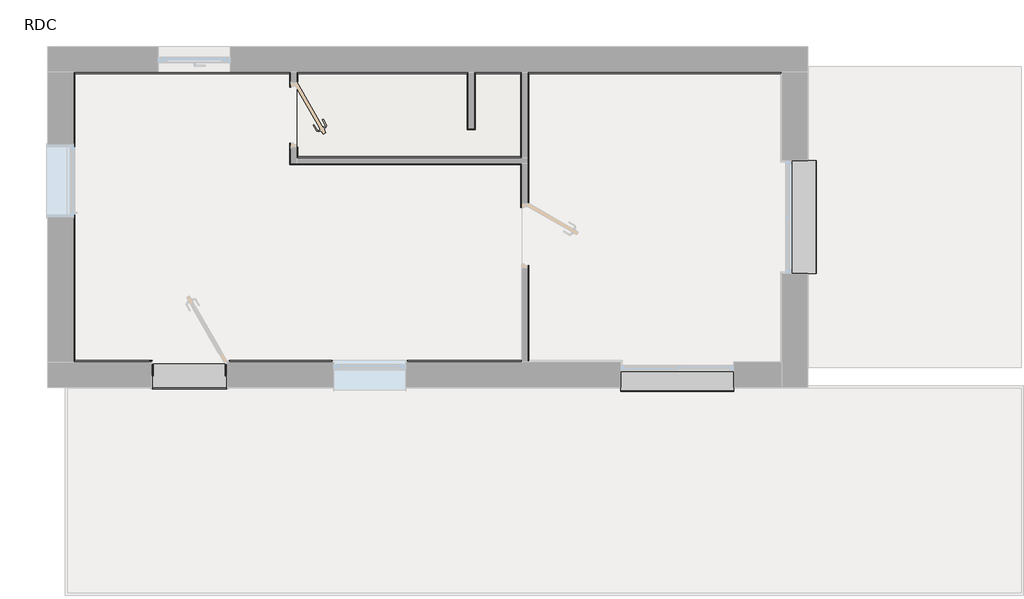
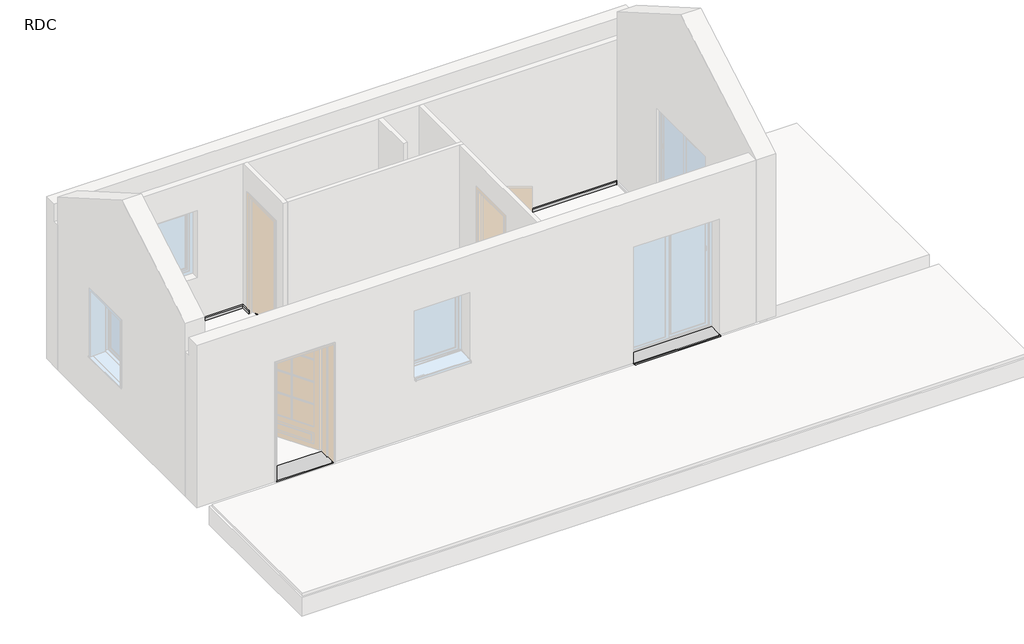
# One storey, part 2 of 2: 8 proxies, 1 slab.
"""IFC4 building model written with IfcOpenShell, lengths in millimetres."""

from ifc_helpers import new_model, si_unit, frame, origin, place, context, project, spatial, circle_curve, ellipse_curve, faceted_brep, transform, mapped, element, save
from ifc_brep_helpers import plane_surface, cylinder_surface, advanced_brep
from components import famille1_a44e7e37, famille1_b6ac26f9

model = new_model("IFC4")

# Units and contexts
model_context = context("Model", 3, world=origin())
ifc_project = project(units=[si_unit("LENGTHUNIT", "METRE", prefix="MILLI")], contexts=[model_context])

# Site, building, storey
site = spatial("IfcSite", under=ifc_project)
building = spatial("IfcBuilding", under=site)
storey = spatial("IfcBuildingStorey", under=building, Name="RDC", Elevation=1000.0)

# Proxies
placement = place(None, origin())
element("IfcBuildingElementProxy", 1, Name="Bord des dalles 2", ObjectType="Bord des dalles 2", at=placement, inside=storey, context=model_context, shape_type="AdvancedBrep", body=[
    advanced_brep(
    [(5938.5031637, 1646.0506387, 1080.0), (5938.5031637, 1646.0506387, 1020.0), (5953.5031637, 1631.0506387, 1020.0), (5953.5031637, 1631.0506387, 1067.7576914), (8073.5031637, 1646.0506387, 1080.0), (8073.5031637, 1646.0506387, 1020.0), (8058.5031637, 1631.0506387, 1020.0), (8058.5031637, 1631.0506387, 1067.7576914), (8073.5031637, 946.0506387, 1080.0), (8058.5031637, 931.0506387, 1067.7576914), (8058.5031637, 931.0506387, 1020.0), (8073.5031637, 946.0506387, 1020.0)],
    [
        (0, 1),
        (1, 2),
        (2, 3),
        (3, 0, ellipse_curve(frame((5937.9483581, 1646.6054442, 1064.0096219), z_axis=(-0.7071067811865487, -0.7071067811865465, 0.0), x_axis=(0.7071067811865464, -0.7071067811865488, 0.0)), 22.627417, 16.0)),
        (4, 5),
        (5, 1),
        (0, 4),
        (5, 6),
        (6, 2),
        (6, 7),
        (7, 3),
        (7, 4, ellipse_curve(frame((8074.0579692, 1646.6054442, 1064.0096219), z_axis=(-0.7071067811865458, 0.7071067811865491, 0.0), x_axis=(0.7071067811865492, 0.7071067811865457, 0.0)), 22.627417, 16.0)),
        (8, 9, ellipse_curve(frame((8074.0579692, 946.6054442, 1064.0096219), z_axis=(0.7071067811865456, -0.7071067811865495, 0.0), x_axis=(-0.7071067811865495, -0.7071067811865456, 0.0)), 22.627417, 16.0)),
        (9, 10),
        (10, 11),
        (11, 8),
        (11, 5),
        (4, 8),
        (10, 6),
        (9, 7),
    ],
    [
        plane_surface(frame((5938.5031637, 1646.0506387, 1020.0), z_axis=(-0.7071067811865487, -0.7071067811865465, 0.0), x_axis=(0.7071067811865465, -0.7071067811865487, 0.0))),
        plane_surface(frame((8073.5031637, 1646.0506387, 1020.0), z_axis=(0.0, 1.0, 0.0), x_axis=(-1.0, 0.0, 0.0))),
        plane_surface(frame((8058.5031637, 1631.0506387, 1020.0), z_axis=(0.0, 0.0, -1.0), x_axis=(-1.0, 0.0, 0.0))),
        plane_surface(frame((8058.5031637, 1631.0506387, 1067.7576914), z_axis=(0.0, -1.0, 0.0), x_axis=(-1.0, 0.0, 0.0))),
        cylinder_surface(frame((8073.5031637, 1646.6054442, 1064.0096219), z_axis=(1.0, 0.0, 0.0), x_axis=(0.0, -1.0, 0.0)), 16.0),
        plane_surface(frame((8073.5031637, 946.0506387, 1020.0), z_axis=(0.7071067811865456, -0.7071067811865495, 0.0), x_axis=(-0.7071067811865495, -0.7071067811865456, 0.0))),
        plane_surface(frame((8073.5031637, 946.0506387, 1020.0), z_axis=(1.0, 0.0, 0.0), x_axis=(0.0, 1.0, 0.0))),
        plane_surface(frame((8058.5031637, 931.0506387, 1020.0), z_axis=(0.0, 0.0, -1.0), x_axis=(0.0, 1.0, 0.0))),
        plane_surface(frame((8058.5031637, 931.0506387, 1067.7576914), z_axis=(-1.0, 0.0, 0.0), x_axis=(0.0, 1.0, 0.0))),
        cylinder_surface(frame((8074.0579692, 946.0506387, 1064.0096219), z_axis=(0.0, -1.0, 0.0), x_axis=(-1.0, 0.0, 0.0)), 16.0),
    ],
    [
        (0, [[1, 2, 3, 4]]),
        (1, [[5, 6, -1, 7]]),
        (2, [[8, 9, -2, -6]]),
        (3, [[10, 11, -3, -9]]),
        (4, [[12, -7, -4, -11]]),
        (5, [[13, 14, 15, 16]]),
        (6, [[-16, 17, -5, 18]]),
        (7, [[-15, 19, -8, -17]]),
        (8, [[-14, 20, -10, -19]]),
        (9, [[-13, -18, -12, -20]]),
    ],
),
    advanced_brep(
    [(8143.5031637, 1646.0506387, 1080.0), (8143.5031637, 1646.0506387, 1020.0), (8158.5031637, 1631.0506387, 1020.0), (8158.5031637, 1631.0506387, 1067.7576914), (8738.5031637, 1646.0506387, 1080.0), (8738.5031637, 1646.0506387, 1020.0), (8723.5031637, 1631.0506387, 1020.0), (8723.5031637, 1631.0506387, 1067.7576914), (8738.5031637, 581.0506387, 1080.0), (8723.5031637, 596.0506387, 1067.7576914), (8723.5031637, 596.0506387, 1020.0), (8738.5031637, 581.0506387, 1020.0)],
    [
        (0, 1),
        (1, 2),
        (2, 3),
        (3, 0, ellipse_curve(frame((8142.9483581, 1646.6054442, 1064.0096219), z_axis=(-0.7071067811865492, -0.7071067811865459, 0.0), x_axis=(0.7071067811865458, -0.7071067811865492, 0.0)), 22.627417, 16.0)),
        (4, 5),
        (5, 1),
        (0, 4),
        (5, 6),
        (6, 2),
        (6, 7),
        (7, 3),
        (7, 4, ellipse_curve(frame((8739.0579692, 1646.6054442, 1064.0096219), z_axis=(-0.7071067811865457, 0.7071067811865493, 0.0), x_axis=(0.7071067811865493, 0.7071067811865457, 0.0)), 22.627417, 16.0)),
        (8, 9, ellipse_curve(frame((8739.0579692, 580.4958331, 1064.0096219), z_axis=(-0.7071067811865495, -0.7071067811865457, 0.0), x_axis=(0.7071067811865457, -0.7071067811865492, 0.0)), 22.627417, 16.0)),
        (9, 10),
        (10, 11),
        (11, 8),
        (11, 5),
        (4, 8),
        (10, 6),
        (9, 7),
    ],
    [
        plane_surface(frame((8143.5031637, 1646.0506387, 1020.0), z_axis=(-0.7071067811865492, -0.7071067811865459, 0.0), x_axis=(0.7071067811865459, -0.7071067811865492, 0.0))),
        plane_surface(frame((8738.5031637, 1646.0506387, 1020.0), z_axis=(0.0, 1.0, 0.0), x_axis=(-1.0, 0.0, 0.0))),
        plane_surface(frame((8723.5031637, 1631.0506387, 1020.0), z_axis=(0.0, 0.0, -1.0), x_axis=(-1.0, 0.0, 0.0))),
        plane_surface(frame((8723.5031637, 1631.0506387, 1067.7576914), z_axis=(0.0, -1.0, 0.0), x_axis=(-1.0, 0.0, 0.0))),
        cylinder_surface(frame((8738.5031637, 1646.6054442, 1064.0096219), z_axis=(1.0, 0.0, 0.0), x_axis=(0.0, -1.0, 0.0)), 16.0),
        plane_surface(frame((8738.5031637, 581.0506387, 1020.0), z_axis=(-0.7071067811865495, -0.7071067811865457, 0.0), x_axis=(0.7071067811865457, -0.7071067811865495, 0.0))),
        plane_surface(frame((8738.5031637, 581.0506387, 1020.0), z_axis=(1.0, 0.0, 0.0), x_axis=(0.0, 1.0, 0.0))),
        plane_surface(frame((8723.5031637, 596.0506387, 1020.0), z_axis=(0.0, 0.0, -1.0), x_axis=(0.0, 1.0, 0.0))),
        plane_surface(frame((8723.5031637, 596.0506387, 1067.7576914), z_axis=(-1.0, 0.0, 0.0), x_axis=(0.0, 1.0, 0.0))),
        cylinder_surface(frame((8739.0579692, 581.0506387, 1064.0096219), z_axis=(0.0, -1.0, 0.0), x_axis=(-1.0, 0.0, 0.0)), 16.0),
    ],
    [
        (0, [[1, 2, 3, 4]]),
        (1, [[5, 6, -1, 7]]),
        (2, [[8, 9, -2, -6]]),
        (3, [[10, 11, -3, -9]]),
        (4, [[12, -7, -4, -11]]),
        (5, [[13, 14, 15, 16]]),
        (6, [[-16, 17, -5, 18]]),
        (7, [[-15, 19, -8, -17]]),
        (8, [[-14, 20, -10, -19]]),
        (9, [[-13, -18, -12, -20]]),
    ],
),
])
element("IfcBuildingElementProxy", 2, Name="Bord des dalles 2", ObjectType="Bord des dalles 2", at=placement, inside=storey, context=model_context, shape_type="AdvancedBrep", body=[
    advanced_brep(
    [(8738.5031637, 581.0506387, 1080.0), (8738.5031637, 581.0506387, 1020.0), (8723.5031637, 596.0506387, 1020.0), (8723.5031637, 596.0506387, 1067.7576914), (5938.5031637, 581.0506387, 1080.0), (5938.5031637, 581.0506387, 1020.0), (5953.5031637, 596.0506387, 1020.0), (5953.5031637, 596.0506387, 1067.7576914), (5938.5031637, 713.5506387, 1080.0), (5953.5031637, 713.5506387, 1067.7576914), (5953.5031637, 713.5506387, 1020.0), (5938.5031637, 713.5506387, 1020.0)],
    [
        (0, 1),
        (1, 2),
        (2, 3),
        (3, 0, ellipse_curve(frame((8739.0579692, 580.4958331, 1064.0096219), z_axis=(0.7071067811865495, 0.7071067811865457, 0.0), x_axis=(-0.7071067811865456, 0.7071067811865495, 0.0)), 22.627417, 16.0)),
        (4, 5),
        (5, 1),
        (0, 4),
        (5, 6),
        (6, 2),
        (6, 7),
        (7, 3),
        (7, 4, ellipse_curve(frame((5937.9483581, 580.4958331, 1064.0096219), z_axis=(0.7071067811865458, -0.707106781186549, 0.0), x_axis=(-0.7071067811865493, -0.7071067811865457, 0.0)), 22.627417, 16.0)),
        (8, 9, circle_curve(frame((5937.9483581, 713.5506387, 1064.0096219), z_axis=(0.0, 1.0, 0.0), x_axis=(1.0, 0.0, 0.0)), 16.0)),
        (9, 10),
        (10, 11),
        (11, 8),
        (11, 5),
        (4, 8),
        (10, 6),
        (9, 7),
    ],
    [
        plane_surface(frame((8738.5031637, 581.0506387, 1020.0), z_axis=(0.7071067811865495, 0.7071067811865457, 0.0), x_axis=(-0.7071067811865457, 0.7071067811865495, 0.0))),
        plane_surface(frame((5938.5031637, 581.0506387, 1020.0), z_axis=(0.0, -1.0, 0.0), x_axis=(1.0, 0.0, 0.0))),
        plane_surface(frame((5953.5031637, 596.0506387, 1020.0), z_axis=(0.0, 0.0, -1.0), x_axis=(1.0, 0.0, 0.0))),
        plane_surface(frame((5953.5031637, 596.0506387, 1067.7576914), z_axis=(0.0, 1.0, 0.0), x_axis=(1.0, 0.0, 0.0))),
        cylinder_surface(frame((5938.5031637, 580.4958331, 1064.0096219), z_axis=(-1.0, 0.0, 0.0), x_axis=(0.0, 1.0, 0.0)), 16.0),
        plane_surface(frame((5878.5031637, 713.5506387, 1020.0), z_axis=(0.0, 1.0, 0.0), x_axis=(0.0, 0.0, -1.0))),
        plane_surface(frame((5938.5031637, 713.5506387, 1020.0), z_axis=(-1.0, 0.0, 0.0), x_axis=(0.0, -1.0, 0.0))),
        plane_surface(frame((5953.5031637, 713.5506387, 1020.0), z_axis=(0.0, 0.0, -1.0), x_axis=(0.0, -1.0, 0.0))),
        plane_surface(frame((5953.5031637, 713.5506387, 1067.7576914), z_axis=(1.0, 0.0, 0.0), x_axis=(0.0, -1.0, 0.0))),
        cylinder_surface(frame((5937.9483581, 713.5506387, 1064.0096219), z_axis=(0.0, 1.0, 0.0), x_axis=(1.0, 0.0, 0.0)), 16.0),
    ],
    [
        (0, [[1, 2, 3, 4]]),
        (1, [[5, 6, -1, 7]]),
        (2, [[8, 9, -2, -6]]),
        (3, [[10, 11, -3, -9]]),
        (4, [[12, -7, -4, -11]]),
        (5, [[13, 14, 15, 16]]),
        (6, [[-16, 17, -5, 18]]),
        (7, [[-15, 19, -8, -17]]),
        (8, [[-14, 20, -10, -19]]),
        (9, [[-13, -18, -12, -20]]),
    ],
),
    advanced_brep(
    [(8143.5031637, 1646.0506387, 1080.0), (8158.5031637, 1631.0506387, 1067.7576914), (8158.5031637, 1631.0506387, 1020.0), (8143.5031637, 1646.0506387, 1020.0), (8143.5031637, 946.0506387, 1080.0), (8143.5031637, 946.0506387, 1020.0), (8158.5031637, 931.0506387, 1020.0), (8158.5031637, 931.0506387, 1067.7576914)],
    [
        (0, 1, ellipse_curve(frame((8142.9483581, 1646.6054442, 1064.0096219), z_axis=(0.7071067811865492, 0.7071067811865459, 0.0), x_axis=(-0.707106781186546, 0.7071067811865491, 0.0)), 22.627417, 16.0)),
        (1, 2),
        (2, 3),
        (3, 0),
        (4, 5),
        (5, 6),
        (6, 7),
        (7, 4, ellipse_curve(frame((8142.9483581, 946.6054442, 1064.0096219), z_axis=(-0.7071067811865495, -0.7071067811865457, 0.0), x_axis=(-0.7071067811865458, 0.7071067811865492, 0.0)), 22.627417, 16.0)),
        (3, 5),
        (4, 0),
        (2, 6),
        (1, 7),
    ],
    [
        plane_surface(frame((8143.5031637, 1646.0506387, 1020.0), z_axis=(0.7071067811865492, 0.7071067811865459, 0.0), x_axis=(-0.7071067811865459, 0.7071067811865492, 0.0))),
        plane_surface(frame((8143.5031637, 946.0506387, 1020.0), z_axis=(-0.7071067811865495, -0.7071067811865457, 0.0), x_axis=(-0.7071067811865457, 0.7071067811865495, 0.0))),
        plane_surface(frame((8143.5031637, 1646.0506387, 1020.0), z_axis=(-1.0, 0.0, 0.0), x_axis=(0.0, -1.0, 0.0))),
        plane_surface(frame((8158.5031637, 1631.0506387, 1020.0), z_axis=(0.0, 0.0, -1.0), x_axis=(0.0, -1.0, 0.0))),
        plane_surface(frame((8158.5031637, 1631.0506387, 1067.7576914), z_axis=(1.0, 0.0, 0.0), x_axis=(0.0, -1.0, 0.0))),
        cylinder_surface(frame((8142.9483581, 1646.0506387, 1064.0096219), z_axis=(0.0, 1.0, 0.0), x_axis=(1.0, 0.0, 0.0)), 16.0),
    ],
    [
        (0, [[1, 2, 3, 4]]),
        (1, [[5, 6, 7, 8]]),
        (2, [[-4, 9, -5, 10]]),
        (3, [[-3, 11, -6, -9]]),
        (4, [[-2, 12, -7, -11]]),
        (5, [[-1, -10, -8, -12]]),
    ],
),
])
element("IfcBuildingElementProxy", 3, Name="Bord des dalles", ObjectType="Bord des dalles", at=placement, inside=storey, context=model_context, shape_type="AdvancedBrep", body=[
    advanced_brep(
    [(11968.5031637, 1646.0506387, 1080.0), (11953.5031637, 1631.0506387, 1067.7576914), (11953.5031637, 1631.0506387, 1020.0), (11968.5031637, 1646.0506387, 1020.0), (8808.5031637, 1646.0506387, 1020.0), (8808.5031637, 1646.0506387, 1080.0), (8823.5031637, 1631.0506387, 1020.0), (8823.5031637, 1631.0506387, 1067.7576914), (8808.5031637, -23.9493613, 1080.0), (8808.5031637, -23.9493613, 1020.0), (8823.5031637, -23.9493613, 1020.0), (8823.5031637, -23.9493613, 1067.7576914)],
    [
        (0, 1, ellipse_curve(frame((11969.0579692, 1646.6054442, 1064.0096219), z_axis=(0.7071067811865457, -0.7071067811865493, 0.0), x_axis=(0.7071067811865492, 0.7071067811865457, 0.0)), 22.627417, 16.0)),
        (1, 2),
        (2, 3),
        (3, 0),
        (3, 4),
        (4, 5),
        (5, 0),
        (2, 6),
        (6, 4),
        (1, 7),
        (7, 6),
        (5, 7, ellipse_curve(frame((8807.9483581, 1646.6054442, 1064.0096219), z_axis=(0.7071067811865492, 0.7071067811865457, 0.0), x_axis=(0.7071067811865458, -0.7071067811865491, 0.0)), 22.627417, 16.0)),
        (8, 9),
        (9, 10),
        (10, 11),
        (11, 8, circle_curve(frame((8807.9483581, -23.9493613, 1064.0096219), z_axis=(0.0, -1.0, 0.0), x_axis=(1.0, 0.0, 0.0)), 16.0)),
        (5, 8),
        (11, 7),
        (10, 6),
        (9, 4),
    ],
    [
        plane_surface(frame((11968.5031637, 1646.0506387, 1020.0), z_axis=(0.7071067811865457, -0.7071067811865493, 0.0), x_axis=(0.7071067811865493, 0.7071067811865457, 0.0))),
        plane_surface(frame((11968.5031637, 1646.0506387, 1020.0), z_axis=(0.0, 1.0, 0.0), x_axis=(-1.0, 0.0, 0.0))),
        plane_surface(frame((11953.5031637, 1631.0506387, 1020.0), z_axis=(0.0, 0.0, -1.0), x_axis=(-1.0, 0.0, 0.0))),
        plane_surface(frame((11953.5031637, 1631.0506387, 1067.7576914), z_axis=(0.0, -1.0, 0.0), x_axis=(-1.0, 0.0, 0.0))),
        cylinder_surface(frame((11968.5031637, 1646.6054442, 1064.0096219), z_axis=(1.0, 0.0, 0.0), x_axis=(0.0, -1.0, 0.0)), 16.0),
        plane_surface(frame((8748.5031637, -23.9493613, 1020.0), z_axis=(0.0, -1.0, 0.0), x_axis=(0.0, 0.0, -1.0))),
        cylinder_surface(frame((8807.9483581, 1646.0506387, 1064.0096219), z_axis=(0.0, 1.0, 0.0), x_axis=(1.0, 0.0, 0.0)), 16.0),
        plane_surface(frame((8823.5031637, 1631.0506387, 1067.7576914), z_axis=(1.0, 0.0, 0.0), x_axis=(0.0, -1.0, 0.0))),
        plane_surface(frame((8823.5031637, 1631.0506387, 1020.0), z_axis=(0.0, 0.0, -1.0), x_axis=(0.0, -1.0, 0.0))),
        plane_surface(frame((8808.5031637, 1646.0506387, 1020.0), z_axis=(-1.0, 0.0, 0.0), x_axis=(0.0, -1.0, 0.0))),
    ],
    [
        (0, [[1, 2, 3, 4]]),
        (1, [[-4, 5, 6, 7]]),
        (2, [[-3, 8, 9, -5]]),
        (3, [[-2, 10, 11, -8]]),
        (4, [[-1, -7, 12, -10]]),
        (5, [[13, 14, 15, 16]]),
        (6, [[-12, 17, -16, 18]]),
        (7, [[-11, -18, -15, 19]]),
        (8, [[-9, -19, -14, 20]]),
        (9, [[-6, -20, -13, -17]]),
    ],
),
    advanced_brep(
    [(8808.5031637, -753.9493613, 1080.0), (8823.5031637, -753.9493613, 1067.7576914), (8823.5031637, -753.9493613, 1020.0), (8808.5031637, -753.9493613, 1020.0), (8808.5031637, -1953.9493613, 1080.0), (8808.5031637, -1953.9493613, 1020.0), (8823.5031637, -1938.9493613, 1020.0), (8823.5031637, -1938.9493613, 1067.7576914)],
    [
        (0, 1, circle_curve(frame((8807.9483581, -753.9493613, 1064.0096219), z_axis=(0.0, 1.0, 0.0), x_axis=(1.0, 0.0, 0.0)), 16.0)),
        (1, 2),
        (2, 3),
        (3, 0),
        (4, 5),
        (5, 6),
        (6, 7),
        (7, 4, ellipse_curve(frame((8807.9483581, -1954.5041669, 1064.0096219), z_axis=(0.7071067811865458, -0.7071067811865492, 0.0), x_axis=(0.7071067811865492, 0.7071067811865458, 0.0)), 22.627417, 16.0)),
        (0, 4),
        (7, 1),
        (6, 2),
        (5, 3),
    ],
    [
        plane_surface(frame((8748.5031637, -753.9493613, 1020.0), z_axis=(0.0, 1.0, 0.0), x_axis=(0.0, 0.0, -1.0))),
        plane_surface(frame((8808.5031637, -1953.9493613, 1020.0), z_axis=(0.7071067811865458, -0.7071067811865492, 0.0), x_axis=(0.7071067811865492, 0.7071067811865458, 0.0))),
        cylinder_surface(frame((8807.9483581, -753.9493613, 1064.0096219), z_axis=(0.0, 1.0, 0.0), x_axis=(1.0, 0.0, 0.0)), 16.0),
        plane_surface(frame((8823.5031637, -753.9493613, 1067.7576914), z_axis=(1.0, 0.0, 0.0), x_axis=(0.0, -1.0, 0.0))),
        plane_surface(frame((8823.5031637, -753.9493613, 1020.0), z_axis=(0.0, 0.0, -1.0), x_axis=(0.0, -1.0, 0.0))),
        plane_surface(frame((8808.5031637, -753.9493613, 1020.0), z_axis=(-1.0, 0.0, 0.0), x_axis=(0.0, -1.0, 0.0))),
    ],
    [
        (0, [[1, 2, 3, 4]]),
        (1, [[5, 6, 7, 8]]),
        (2, [[-1, 9, -8, 10]]),
        (3, [[-2, -10, -7, 11]]),
        (4, [[-3, -11, -6, 12]]),
        (5, [[-4, -12, -5, -9]]),
    ],
),
    advanced_brep(
    [(3183.5031637, 1631.0506387, 1067.7576914), (3168.5031637, 1646.0506387, 1080.0), (3168.5031637, -1953.9493613, 1080.0), (3183.5031637, -1938.9493613, 1067.7576914), (3183.5031637, 1631.0506387, 1020.0), (3183.5031637, -1938.9493613, 1020.0), (3168.5031637, 1646.0506387, 1020.0), (3168.5031637, -1953.9493613, 1020.0), (4143.5031637, -1953.9493613, 1080.0), (4143.5031637, -1953.9493613, 1020.0), (4143.5031637, -1938.9493613, 1020.0), (4143.5031637, -1938.9493613, 1067.7576914), (5853.5031637, 1631.0506387, 1067.7576914), (5868.5031637, 1646.0506387, 1080.0), (5853.5031637, 1631.0506387, 1020.0), (5868.5031637, 1646.0506387, 1020.0), (5868.5031637, 1463.5506387, 1080.0), (5853.5031637, 1463.5506387, 1067.7576914), (5853.5031637, 1463.5506387, 1020.0), (5868.5031637, 1463.5506387, 1020.0)],
    [
        (0, 1, ellipse_curve(frame((3167.9483581, 1646.6054442, 1064.0096219), z_axis=(-0.7071067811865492, -0.7071067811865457, 0.0), x_axis=(-0.7071067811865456, 0.7071067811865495, 0.0)), 22.627417, 16.0)),
        (1, 2),
        (2, 3, ellipse_curve(frame((3167.9483581, -1954.5041669, 1064.0096219), z_axis=(-0.7071067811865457, 0.7071067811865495, 0.0), x_axis=(0.7071067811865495, 0.7071067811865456, 0.0)), 22.627417, 16.0)),
        (3, 0),
        (4, 0),
        (3, 5),
        (5, 4),
        (6, 4),
        (5, 7),
        (7, 6),
        (1, 6),
        (7, 2),
        (8, 9),
        (9, 10),
        (10, 11),
        (11, 8, circle_curve(frame((4143.5031637, -1954.5041669, 1064.0096219), z_axis=(1.0, 0.0, 0.0), x_axis=(0.0, 1.0, 0.0)), 16.0)),
        (2, 8),
        (11, 3),
        (10, 5),
        (9, 7),
        (12, 13, ellipse_curve(frame((5869.0579692, 1646.6054442, 1064.0096219), z_axis=(-0.7071067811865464, 0.7071067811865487, 0.0), x_axis=(0.7071067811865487, 0.7071067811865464, 0.0)), 22.627417, 16.0)),
        (13, 1),
        (0, 12),
        (14, 12),
        (4, 14),
        (15, 14),
        (6, 15),
        (13, 15),
        (16, 17, circle_curve(frame((5869.0579692, 1463.5506387, 1064.0096219), z_axis=(0.0, -1.0, 0.0), x_axis=(-1.0, 0.0, 0.0)), 16.0)),
        (17, 18),
        (18, 19),
        (19, 16),
        (16, 13),
        (12, 17),
        (14, 18),
        (15, 19),
    ],
    [
        cylinder_surface(frame((3167.9483581, 1646.0506387, 1064.0096219), z_axis=(0.0, 1.0, 0.0), x_axis=(1.0, 0.0, 0.0)), 16.0),
        plane_surface(frame((3183.5031637, 1631.0506387, 1067.7576914), z_axis=(1.0, 0.0, 0.0), x_axis=(0.0, -1.0, 0.0))),
        plane_surface(frame((3183.5031637, 1631.0506387, 1020.0), z_axis=(0.0, 0.0, -1.0), x_axis=(0.0, -1.0, 0.0))),
        plane_surface(frame((3168.5031637, 1646.0506387, 1020.0), z_axis=(-1.0, 0.0, 0.0), x_axis=(0.0, -1.0, 0.0))),
        plane_surface(frame((4143.5031637, -1953.9493613, 960.0), z_axis=(1.0, 0.0, 0.0), x_axis=(0.0, 1.0, 0.0))),
        cylinder_surface(frame((3168.5031637, -1954.5041669, 1064.0096219), z_axis=(-1.0, 0.0, 0.0), x_axis=(0.0, 1.0, 0.0)), 16.0),
        plane_surface(frame((3183.5031637, -1938.9493613, 1067.7576914), z_axis=(0.0, 1.0, 0.0), x_axis=(1.0, 0.0, 0.0))),
        plane_surface(frame((3183.5031637, -1938.9493613, 1020.0), z_axis=(0.0, 0.0, -1.0), x_axis=(1.0, 0.0, 0.0))),
        plane_surface(frame((3168.5031637, -1953.9493613, 1020.0), z_axis=(0.0, -1.0, 0.0), x_axis=(1.0, 0.0, 0.0))),
        cylinder_surface(frame((5868.5031637, 1646.6054442, 1064.0096219), z_axis=(1.0, 0.0, 0.0), x_axis=(0.0, -1.0, 0.0)), 16.0),
        plane_surface(frame((5853.5031637, 1631.0506387, 1067.7576914), z_axis=(0.0, -1.0, 0.0), x_axis=(-1.0, 0.0, 0.0))),
        plane_surface(frame((5853.5031637, 1631.0506387, 1020.0), z_axis=(0.0, 0.0, -1.0), x_axis=(-1.0, 0.0, 0.0))),
        plane_surface(frame((5868.5031637, 1646.0506387, 1020.0), z_axis=(0.0, 1.0, 0.0), x_axis=(-1.0, 0.0, 0.0))),
        plane_surface(frame((5808.5031637, 1463.5506387, 1020.0), z_axis=(0.0, -1.0, 0.0), x_axis=(0.0, 0.0, 1.0))),
        cylinder_surface(frame((5869.0579692, 1463.5506387, 1064.0096219), z_axis=(0.0, -1.0, 0.0), x_axis=(-1.0, 0.0, 0.0)), 16.0),
        plane_surface(frame((5853.5031637, 1463.5506387, 1067.7576914), z_axis=(-1.0, 0.0, 0.0), x_axis=(0.0, 1.0, 0.0))),
        plane_surface(frame((5853.5031637, 1463.5506387, 1020.0), z_axis=(0.0, 0.0, -1.0), x_axis=(0.0, 1.0, 0.0))),
        plane_surface(frame((5868.5031637, 1463.5506387, 1020.0), z_axis=(1.0, 0.0, 0.0), x_axis=(0.0, 1.0, 0.0))),
    ],
    [
        (0, [[1, 2, 3, 4]]),
        (1, [[5, -4, 6, 7]]),
        (2, [[8, -7, 9, 10]]),
        (3, [[11, -10, 12, -2]]),
        (4, [[13, 14, 15, 16]]),
        (5, [[-3, 17, -16, 18]]),
        (6, [[-6, -18, -15, 19]]),
        (7, [[-9, -19, -14, 20]]),
        (8, [[-12, -20, -13, -17]]),
        (9, [[21, 22, -1, 23]]),
        (10, [[24, -23, -5, 25]]),
        (11, [[26, -25, -8, 27]]),
        (12, [[28, -27, -11, -22]]),
        (13, [[29, 30, 31, 32]]),
        (14, [[-29, 33, -21, 34]]),
        (15, [[-30, -34, -24, 35]]),
        (16, [[-31, -35, -26, 36]]),
        (17, [[-32, -36, -28, -33]]),
    ],
),
    advanced_brep(
    [(5103.5031637, -1953.9493613, 1080.0), (5103.5031637, -1938.9493613, 1067.7576914), (5103.5031637, -1938.9493613, 1020.0), (5103.5031637, -1953.9493613, 1020.0), (8738.5031637, -1953.9493613, 1080.0), (8738.5031637, -1953.9493613, 1020.0), (8738.5031637, -1938.9493613, 1020.0), (8738.5031637, -1938.9493613, 1067.7576914)],
    [
        (0, 1, circle_curve(frame((5103.5031637, -1954.5041669, 1064.0096219), z_axis=(-1.0, 0.0, 0.0), x_axis=(0.0, 1.0, 0.0)), 16.0)),
        (1, 2),
        (2, 3),
        (3, 0),
        (4, 5),
        (5, 6),
        (6, 7),
        (7, 4, circle_curve(frame((8738.5031637, -1954.5041669, 1064.0096219), z_axis=(1.0, 0.0, 0.0), x_axis=(0.0, 1.0, 0.0)), 16.0)),
        (0, 4),
        (7, 1),
        (6, 2),
        (5, 3),
    ],
    [
        plane_surface(frame((5103.5031637, -1953.9493613, 960.0), z_axis=(-1.0, 0.0, 0.0), x_axis=(0.0, 1.0, 0.0))),
        plane_surface(frame((8738.5031637, -1953.9493613, 960.0), z_axis=(1.0, 0.0, 0.0), x_axis=(0.0, 1.0, 0.0))),
        cylinder_surface(frame((5103.5031637, -1954.5041669, 1064.0096219), z_axis=(-1.0, 0.0, 0.0), x_axis=(0.0, 1.0, 0.0)), 16.0),
        plane_surface(frame((5103.5031637, -1938.9493613, 1067.7576914), z_axis=(0.0, 1.0, 0.0), x_axis=(1.0, 0.0, 0.0))),
        plane_surface(frame((5103.5031637, -1938.9493613, 1020.0), z_axis=(0.0, 0.0, -1.0), x_axis=(1.0, 0.0, 0.0))),
        plane_surface(frame((5103.5031637, -1953.9493613, 1020.0), z_axis=(0.0, -1.0, 0.0), x_axis=(1.0, 0.0, 0.0))),
    ],
    [
        (0, [[1, 2, 3, 4]]),
        (1, [[5, 6, 7, 8]]),
        (2, [[-1, 9, -8, 10]]),
        (3, [[-2, -10, -7, 11]]),
        (4, [[-3, -11, -6, 12]]),
        (5, [[-4, -12, -5, -9]]),
    ],
),
    advanced_brep(
    [(5868.5031637, 763.5506387, 1080.0), (5868.5031637, 763.5506387, 1020.0), (5853.5031637, 763.5506387, 1020.0), (5853.5031637, 763.5506387, 1067.7576914), (5853.5031637, 496.0506387, 1067.7576914), (5868.5031637, 511.0506387, 1080.0), (5853.5031637, 496.0506387, 1020.0), (5868.5031637, 511.0506387, 1020.0), (8723.5031637, 496.0506387, 1067.7576914), (8738.5031637, 511.0506387, 1080.0), (8723.5031637, 496.0506387, 1020.0), (8738.5031637, 511.0506387, 1020.0), (8738.5031637, -38.9493613, 1080.0), (8723.5031637, -38.9493613, 1067.7576914), (8723.5031637, -38.9493613, 1020.0), (8738.5031637, -38.9493613, 1020.0)],
    [
        (0, 1),
        (1, 2),
        (2, 3),
        (3, 0, circle_curve(frame((5869.0579692, 763.5506387, 1064.0096219), z_axis=(0.0, 1.0, 0.0), x_axis=(-1.0, 0.0, 0.0)), 16.0)),
        (4, 5, ellipse_curve(frame((5869.0579692, 511.6054442, 1064.0096219), z_axis=(-0.7071067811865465, 0.7071067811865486, 0.0), x_axis=(-0.7071067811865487, -0.7071067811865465, 0.0)), 22.627417, 16.0)),
        (5, 0),
        (3, 4),
        (6, 4),
        (2, 6),
        (7, 6),
        (1, 7),
        (5, 7),
        (8, 9, ellipse_curve(frame((8739.0579692, 511.6054442, 1064.0096219), z_axis=(-0.7071067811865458, 0.7071067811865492, 0.0), x_axis=(0.7071067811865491, 0.7071067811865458, 0.0)), 22.627417, 16.0)),
        (9, 5),
        (4, 8),
        (10, 8),
        (6, 10),
        (11, 10),
        (7, 11),
        (9, 11),
        (12, 13, circle_curve(frame((8739.0579692, -38.9493613, 1064.0096219), z_axis=(0.0, -1.0, 0.0), x_axis=(-1.0, 0.0, 0.0)), 16.0)),
        (13, 14),
        (14, 15),
        (15, 12),
        (12, 9),
        (8, 13),
        (10, 14),
        (11, 15),
    ],
    [
        plane_surface(frame((5808.5031637, 763.5506387, 1020.0), z_axis=(0.0, 1.0, 0.0), x_axis=(0.0, 0.0, 1.0))),
        cylinder_surface(frame((5869.0579692, 511.0506387, 1064.0096219), z_axis=(0.0, -1.0, 0.0), x_axis=(-1.0, 0.0, 0.0)), 16.0),
        plane_surface(frame((5853.5031637, 496.0506387, 1067.7576914), z_axis=(-1.0, 0.0, 0.0), x_axis=(0.0, 1.0, 0.0))),
        plane_surface(frame((5853.5031637, 496.0506387, 1020.0), z_axis=(0.0, 0.0, -1.0), x_axis=(0.0, 1.0, 0.0))),
        plane_surface(frame((5868.5031637, 511.0506387, 1020.0), z_axis=(1.0, 0.0, 0.0), x_axis=(0.0, 1.0, 0.0))),
        cylinder_surface(frame((8738.5031637, 511.6054442, 1064.0096219), z_axis=(1.0, 0.0, 0.0), x_axis=(0.0, -1.0, 0.0)), 16.0),
        plane_surface(frame((8723.5031637, 496.0506387, 1067.7576914), z_axis=(0.0, -1.0, 0.0), x_axis=(-1.0, 0.0, 0.0))),
        plane_surface(frame((8723.5031637, 496.0506387, 1020.0), z_axis=(0.0, 0.0, -1.0), x_axis=(-1.0, 0.0, 0.0))),
        plane_surface(frame((8738.5031637, 511.0506387, 1020.0), z_axis=(0.0, 1.0, 0.0), x_axis=(-1.0, 0.0, 0.0))),
        plane_surface(frame((8678.5031637, -38.9493613, 1020.0), z_axis=(0.0, -1.0, 0.0), x_axis=(0.0, 0.0, 1.0))),
        cylinder_surface(frame((8739.0579692, -38.9493613, 1064.0096219), z_axis=(0.0, -1.0, 0.0), x_axis=(-1.0, 0.0, 0.0)), 16.0),
        plane_surface(frame((8723.5031637, -38.9493613, 1067.7576914), z_axis=(-1.0, 0.0, 0.0), x_axis=(0.0, 1.0, 0.0))),
        plane_surface(frame((8723.5031637, -38.9493613, 1020.0), z_axis=(0.0, 0.0, -1.0), x_axis=(0.0, 1.0, 0.0))),
        plane_surface(frame((8738.5031637, -38.9493613, 1020.0), z_axis=(1.0, 0.0, 0.0), x_axis=(0.0, 1.0, 0.0))),
    ],
    [
        (0, [[1, 2, 3, 4]]),
        (1, [[5, 6, -4, 7]]),
        (2, [[8, -7, -3, 9]]),
        (3, [[10, -9, -2, 11]]),
        (4, [[12, -11, -1, -6]]),
        (5, [[13, 14, -5, 15]]),
        (6, [[16, -15, -8, 17]]),
        (7, [[18, -17, -10, 19]]),
        (8, [[20, -19, -12, -14]]),
        (9, [[21, 22, 23, 24]]),
        (10, [[-21, 25, -13, 26]]),
        (11, [[-22, -26, -16, 27]]),
        (12, [[-23, -27, -18, 28]]),
        (13, [[-24, -28, -20, -25]]),
    ],
),
])
element("IfcBuildingElementProxy", 4, Name="Bord des dalles 2", ObjectType="Bord des dalles 2", at=placement, inside=storey, context=model_context, shape_type="AdvancedBrep", body=[
    advanced_brep(
    [(8143.5031637, 946.0506387, 1080.0), (8158.5031637, 931.0506387, 1067.7576914), (8158.5031637, 931.0506387, 1020.0), (8143.5031637, 946.0506387, 1020.0), (8073.5031637, 946.0506387, 1080.0), (8073.5031637, 946.0506387, 1020.0), (8058.5031637, 931.0506387, 1020.0), (8058.5031637, 931.0506387, 1067.7576914)],
    [
        (0, 1, ellipse_curve(frame((8142.9483581, 946.6054442, 1064.0096219), z_axis=(0.7071067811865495, 0.7071067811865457, 0.0), x_axis=(0.7071067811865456, -0.7071067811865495, 0.0)), 22.627417, 16.0)),
        (1, 2),
        (2, 3),
        (3, 0),
        (4, 5),
        (5, 6),
        (6, 7),
        (7, 4, ellipse_curve(frame((8074.0579692, 946.6054442, 1064.0096219), z_axis=(-0.7071067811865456, 0.7071067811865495, 0.0), x_axis=(0.7071067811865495, 0.7071067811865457, 0.0)), 22.627417, 16.0)),
        (3, 5),
        (4, 0),
        (2, 6),
        (1, 7),
    ],
    [
        plane_surface(frame((8143.5031637, 946.0506387, 1020.0), z_axis=(0.7071067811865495, 0.7071067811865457, 0.0), x_axis=(0.7071067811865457, -0.7071067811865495, 0.0))),
        plane_surface(frame((8073.5031637, 946.0506387, 1020.0), z_axis=(-0.7071067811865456, 0.7071067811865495, 0.0), x_axis=(0.7071067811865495, 0.7071067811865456, 0.0))),
        plane_surface(frame((8143.5031637, 946.0506387, 1020.0), z_axis=(0.0, 1.0, 0.0), x_axis=(-1.0, 0.0, 0.0))),
        plane_surface(frame((8158.5031637, 931.0506387, 1020.0), z_axis=(0.0, 0.0, -1.0), x_axis=(-1.0, 0.0, 0.0))),
        plane_surface(frame((8158.5031637, 931.0506387, 1067.7576914), z_axis=(0.0, -1.0, 0.0), x_axis=(-1.0, 0.0, 0.0))),
        cylinder_surface(frame((8143.5031637, 946.6054442, 1064.0096219), z_axis=(1.0, 0.0, 0.0), x_axis=(0.0, -1.0, 0.0)), 16.0),
    ],
    [
        (0, [[1, 2, 3, 4]]),
        (1, [[5, 6, 7, 8]]),
        (2, [[-4, 9, -5, 10]]),
        (3, [[-3, 11, -6, -9]]),
        (4, [[-2, 12, -7, -11]]),
        (5, [[-1, -10, -8, -12]]),
    ],
),
])
element("IfcBuildingElementProxy", 5, Name="plinthe carrelage", ObjectType="plinthe carrelage", at=placement, inside=storey, context=model_context, shape_type="AdvancedBrep", body=[
    advanced_brep(
    [(5938.5031637, 1646.0506387, 1080.0), (5953.5031637, 1631.0506387, 1067.7576914), (5953.5031637, 1631.0506387, 1020.0), (5938.5031637, 1646.0506387, 1020.0), (5938.5031637, 1528.5506387, 1080.0), (5938.5031637, 1528.5506387, 1020.0), (5953.5031637, 1528.5506387, 1020.0), (5953.5031637, 1528.5506387, 1067.7576914)],
    [
        (0, 1, ellipse_curve(frame((5937.9483581, 1646.6054442, 1064.0096219), z_axis=(0.7071067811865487, 0.7071067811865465, 0.0), x_axis=(-0.7071067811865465, 0.7071067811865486, 0.0)), 22.627417, 16.0)),
        (1, 2),
        (2, 3),
        (3, 0),
        (4, 5),
        (5, 6),
        (6, 7),
        (7, 4, circle_curve(frame((5937.9483581, 1528.5506387, 1064.0096219), z_axis=(0.0, -1.0, 0.0), x_axis=(1.0, 0.0, 0.0)), 16.0)),
        (3, 5),
        (4, 0),
        (2, 6),
        (1, 7),
    ],
    [
        plane_surface(frame((5938.5031637, 1646.0506387, 1020.0), z_axis=(0.7071067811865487, 0.7071067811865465, 0.0), x_axis=(-0.7071067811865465, 0.7071067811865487, 0.0))),
        plane_surface(frame((5878.5031637, 1528.5506387, 1020.0), z_axis=(0.0, -1.0, 0.0), x_axis=(0.0, 0.0, -1.0))),
        plane_surface(frame((5938.5031637, 1646.0506387, 1020.0), z_axis=(-1.0, 0.0, 0.0), x_axis=(0.0, -1.0, 0.0))),
        plane_surface(frame((5953.5031637, 1631.0506387, 1020.0), z_axis=(0.0, 0.0, -1.0), x_axis=(0.0, -1.0, 0.0))),
        plane_surface(frame((5953.5031637, 1631.0506387, 1067.7576914), z_axis=(1.0, 0.0, 0.0), x_axis=(0.0, -1.0, 0.0))),
        cylinder_surface(frame((5937.9483581, 1646.0506387, 1064.0096219), z_axis=(0.0, 1.0, 0.0), x_axis=(1.0, 0.0, 0.0)), 16.0),
    ],
    [
        (0, [[1, 2, 3, 4]]),
        (1, [[5, 6, 7, 8]]),
        (2, [[-4, 9, -5, 10]]),
        (3, [[-3, 11, -6, -9]]),
        (4, [[-2, 12, -7, -11]]),
        (5, [[-1, -10, -8, -12]]),
    ],
),
])
famille1_shape = famille1_a44e7e37(model_context)
element("IfcBuildingElementProxy", 6, Name="Famille1 : seuil", ObjectType="Famille1 : seuil", at=placement, inside=storey, context=model_context, shape_type="MappedRepresentation", body=[
    mapped(famille1_shape, transform((5073.5031637, -1970.0373902, 700.0), x_axis=(-1.0, 0.0, 0.0), y_axis=(0.0, -1.0, 0.0), z_axis=(0.0, 0.0, 1.0))),
])
famille1_2_shape = famille1_b6ac26f9(model_context)
element("IfcBuildingElementProxy", 7, Name="Famille1 : seuil", ObjectType="Famille1 : seuil", at=placement, inside=storey, context=model_context, shape_type="MappedRepresentation", body=[
    mapped(famille1_2_shape, transform((11368.5031637, -2001.0373902, 700.0), x_axis=(-1.0, 0.0, 0.0), y_axis=(0.0, -1.0, 0.0), z_axis=(0.0, 0.0, 1.0))),
])
element("IfcBuildingElementProxy", 8, Name="Famille1 : seuil", ObjectType="Famille1 : seuil", at=placement, inside=storey, context=model_context, shape_type="MappedRepresentation", body=[
    mapped(famille1_2_shape, transform((12077.5911926, 546.0506387, 700.0), x_axis=(0.0, -1.0, 0.0), y_axis=(1.0, 0.0, 0.0), z_axis=(0.0, 0.0, 1.0))),
])

# Slab
element("IfcSlab", 9, ObjectType="carelage bungalow", at=placement, inside=storey, context=model_context, shape_type="Brep", body=[
    faceted_brep([(5938.5031637, 1478.5506387, 1000.0), (5938.5031637, 1646.0506387, 1000.0), (8073.5031637, 1646.0506387, 1000.0), (8073.5031637, 946.0506387, 1000.0), (8143.5031637, 946.0506387, 1000.0), (8143.5031637, 1646.0506387, 1000.0), (8738.5031637, 1646.0506387, 1000.0), (8738.5031637, 581.0506387, 1000.0), (5938.5031637, 581.0506387, 1000.0), (5938.5031637, 1478.5506387, 1020.0), (5938.5031637, 713.5506387, 1020.0), (5938.5031637, 581.0506387, 1020.0), (8738.5031637, 581.0506387, 1020.0), (8738.5031637, 1646.0506387, 1020.0), (8143.5031637, 1646.0506387, 1020.0), (8143.5031637, 946.0506387, 1020.0), (8073.5031637, 946.0506387, 1020.0), (8073.5031637, 1646.0506387, 1020.0), (5938.5031637, 1646.0506387, 1020.0), (5938.5031637, 1528.5506387, 1020.0)], [[[0, 1, 2, 3, 4, 5, 6, 7, 8]], [[9, 10, 11, 12, 13, 14, 15, 16, 17, 18, 19]], [[1, 0, 9, 19, 18]], [[2, 1, 18, 17]], [[3, 2, 17, 16]], [[4, 3, 16, 15]], [[5, 4, 15, 14]], [[6, 5, 14, 13]], [[7, 6, 13, 12]], [[8, 7, 12, 11]], [[0, 8, 11, 10, 9]]]),
])

save(model, "model.ifc")
